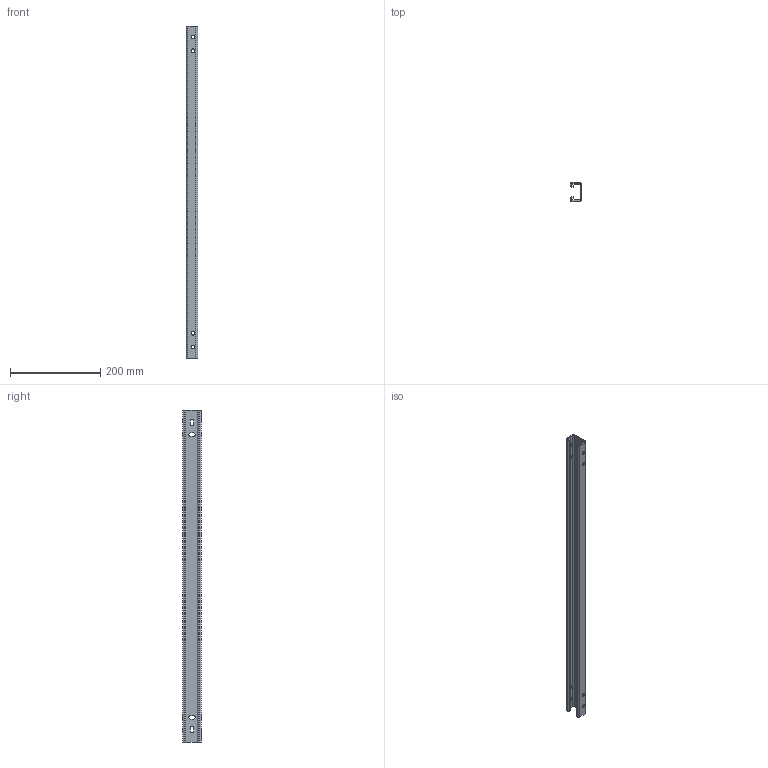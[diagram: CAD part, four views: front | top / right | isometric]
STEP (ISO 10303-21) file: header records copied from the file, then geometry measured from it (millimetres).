
FILE_DESCRIPTION (( 'STEP AP203' ), '1' );
FILE_NAME ('45959.step', '2013-04-03T09:48:39', ( '' ), ( '' ), 'SwSTEP 2.0', 'SolidWorks 2010', '' );
FILE_SCHEMA (( 'CONFIG_CONTROL_DESIGN' ));
Length unit declared in the file: inch
Products named in the file (2): 45959; 45467002
Assembly tree (1 placements, depth 2):
  45959
    45467002
Bounding box: 25.4 x 41.27 x 734.2 mm (x, y, z)
Volume: 181931 mm3; surface area: 155680 mm2
Topology: 1 solids, 1 shells, 64 faces, 186 edges, 124 vertices
Faces by surface type: cylinder 38, plane 26
Entity records: 2394 total; most frequent: DIRECTION 398, CARTESIAN_POINT 378, ORIENTED_EDGE 372, EDGE_CURVE 186, AXIS2_PLACEMENT_3D 144, VERTEX_POINT 124, VECTOR 110, LINE 110
